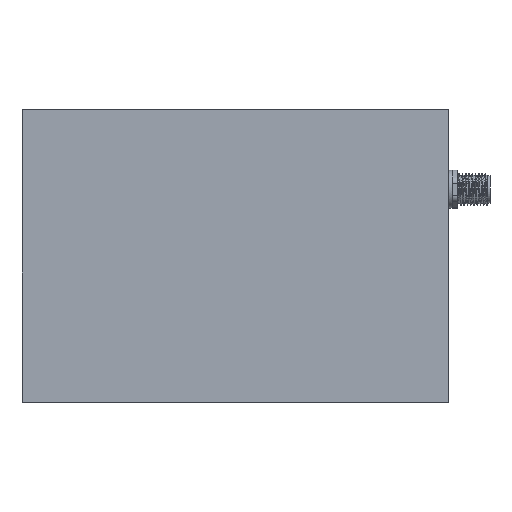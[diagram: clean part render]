
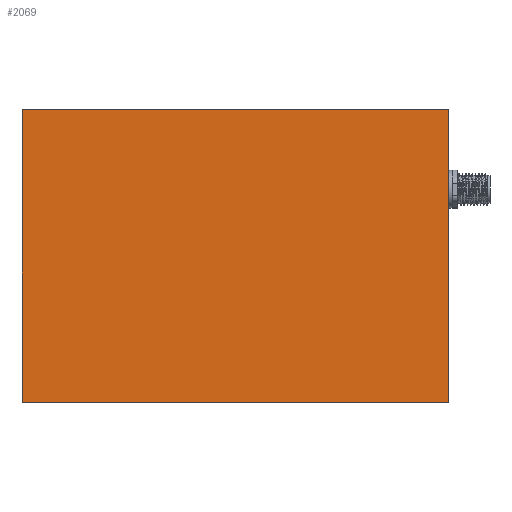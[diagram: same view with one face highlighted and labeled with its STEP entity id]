
A CAD part, top view. The second image highlights one B-rep face of the part: STEP entity #2069.
In plain terms, the highlighted planar face has unit normal (0, 0, 1).
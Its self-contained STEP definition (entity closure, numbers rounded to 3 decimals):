
#468 = VECTOR ( 'NONE', #11860, 1000. ) ;
#561 = CARTESIAN_POINT ( 'NONE',  ( 158., 107., 21.06 ) ) ;
#567 = CARTESIAN_POINT ( 'NONE',  ( 158., -5., 21.06 ) ) ;
#764 = ORIENTED_EDGE ( 'NONE', *, *, #3594, .T. ) ;
#1597 = EDGE_CURVE ( 'NONE', #7280, #9344, #6388, .T. ) ;
#1799 = LINE ( 'NONE', #567, #4535 ) ;
#2069 = ADVANCED_FACE ( 'NONE', ( #7905 ), #12593, .F. ) ;
#2224 = DIRECTION ( 'NONE',  ( 0., 0., -1. ) ) ;
#2354 = VERTEX_POINT ( 'NONE', #10408 ) ;
#3243 = DIRECTION ( 'NONE',  ( 0., 1., 0. ) ) ;
#3594 = EDGE_CURVE ( 'NONE', #2354, #6347, #13947, .T. ) ;
#4131 = EDGE_CURVE ( 'NONE', #9344, #2354, #12199, .T. ) ;
#4298 = ORIENTED_EDGE ( 'NONE', *, *, #12930, .T. ) ;
#4535 = VECTOR ( 'NONE', #13381, 1000. ) ;
#4753 = DIRECTION ( 'NONE',  ( -1., 0., 0. ) ) ;
#5806 = CARTESIAN_POINT ( 'NONE',  ( -5., -5., 21.06 ) ) ;
#6000 = ORIENTED_EDGE ( 'NONE', *, *, #4131, .T. ) ;
#6191 = EDGE_LOOP ( 'NONE', ( #4298, #6479, #6000, #764 ) ) ;
#6347 = VERTEX_POINT ( 'NONE', #11851 ) ;
#6388 = LINE ( 'NONE', #561, #9012 ) ;
#6479 = ORIENTED_EDGE ( 'NONE', *, *, #1597, .T. ) ;
#6566 = AXIS2_PLACEMENT_3D ( 'NONE', #12740, #2224, #4753 ) ;
#7280 = VERTEX_POINT ( 'NONE', #11054 ) ;
#7905 = FACE_OUTER_BOUND ( 'NONE', #6191, .T. ) ;
#8901 = CARTESIAN_POINT ( 'NONE',  ( 158., 107., 21.06 ) ) ;
#9012 = VECTOR ( 'NONE', #3243, 1000. ) ;
#9344 = VERTEX_POINT ( 'NONE', #8901 ) ;
#9814 = DIRECTION ( 'NONE',  ( -1., 0., 0. ) ) ;
#10408 = CARTESIAN_POINT ( 'NONE',  ( -5., 107., 21.06 ) ) ;
#10499 = VECTOR ( 'NONE', #9814, 1000. ) ;
#10814 = CARTESIAN_POINT ( 'NONE',  ( -5., 107., 21.06 ) ) ;
#11054 = CARTESIAN_POINT ( 'NONE',  ( 158., -5., 21.06 ) ) ;
#11851 = CARTESIAN_POINT ( 'NONE',  ( -5., -5., 21.06 ) ) ;
#11860 = DIRECTION ( 'NONE',  ( 0., -1., 0. ) ) ;
#12199 = LINE ( 'NONE', #10814, #10499 ) ;
#12593 = PLANE ( 'NONE',  #6566 ) ;
#12740 = CARTESIAN_POINT ( 'NONE',  ( 0., 0., 21.06 ) ) ;
#12930 = EDGE_CURVE ( 'NONE', #6347, #7280, #1799, .T. ) ;
#13381 = DIRECTION ( 'NONE',  ( 1., 0., 0. ) ) ;
#13947 = LINE ( 'NONE', #5806, #468 ) ;
